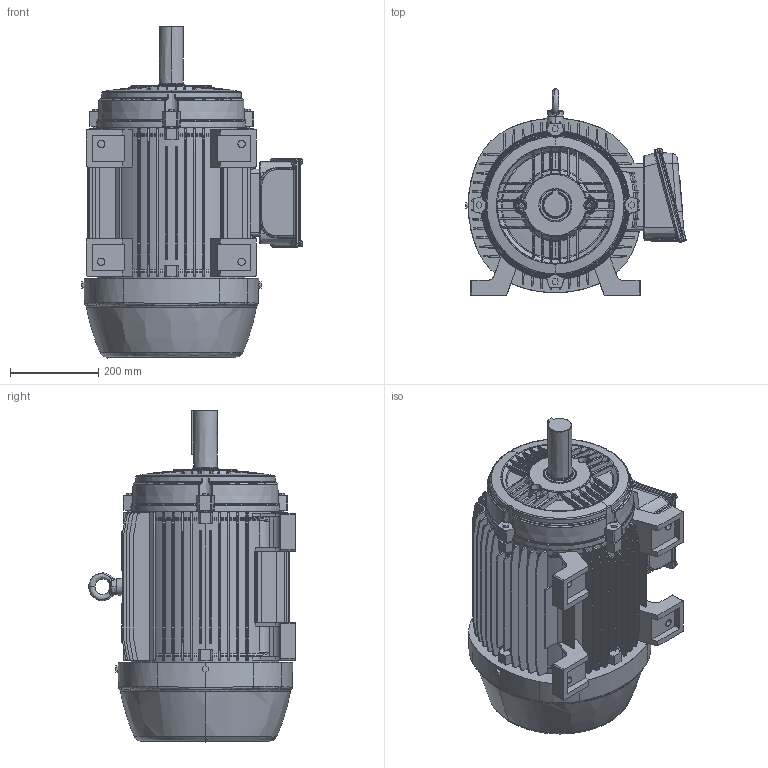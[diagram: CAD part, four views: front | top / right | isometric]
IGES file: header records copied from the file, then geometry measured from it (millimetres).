
Start section: SolidWorks IGES file using analytic representation for surfaces
Global section: file name: Y:\NEMA\W21\14_FRAME_324T\STANDARD\IGS\324T_RIGHT.IGS; native system: SolidWorks 2006 by SolidWorks Corporation; preprocessor: SolidWorks 2006 by SolidWorks Corporation; author: ricardov; date: 060807.100650; units: millimetre
Bounding box: 499.24 x 467.2 x 751.2 mm (x, y, z)
Surface area: 1905671.3 mm2 (no closed solid volume)
Topology: 0 solids, 0 shells, 2079 faces, 23363 edges, 23336 vertices
Faces by surface type: bspline 1294, revolution 785
